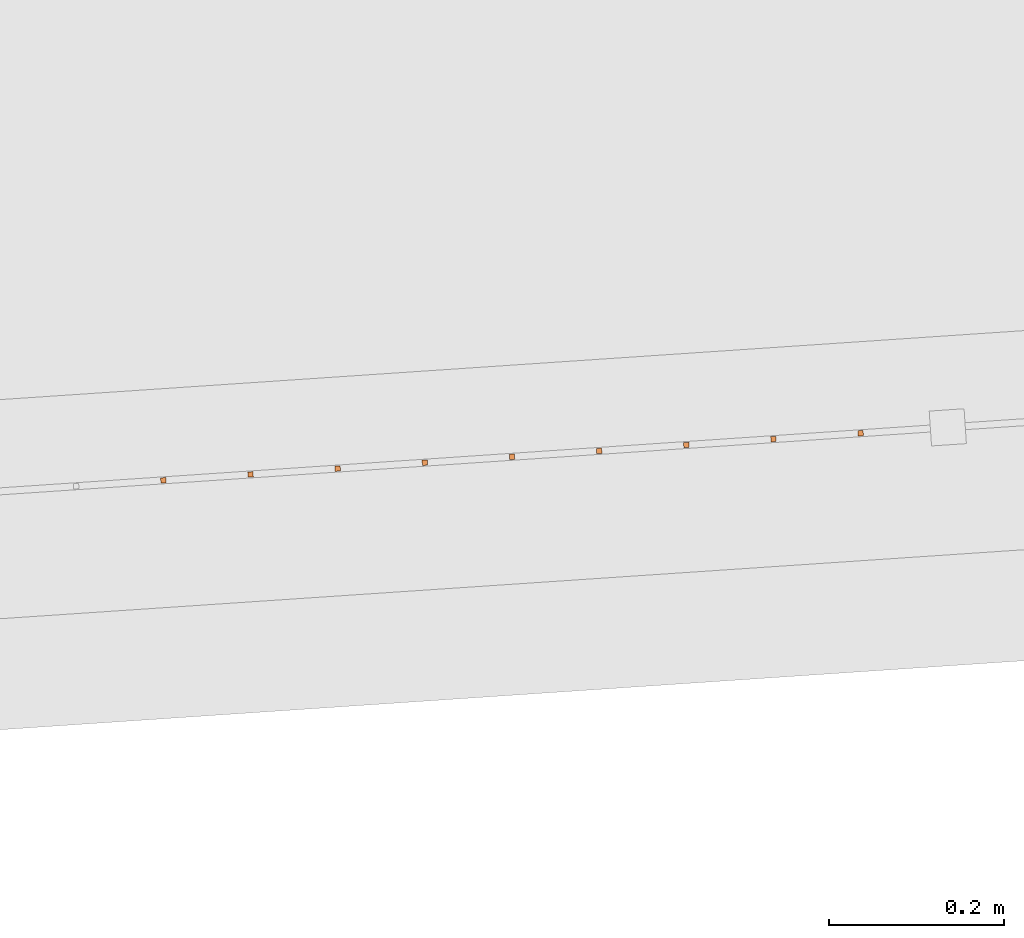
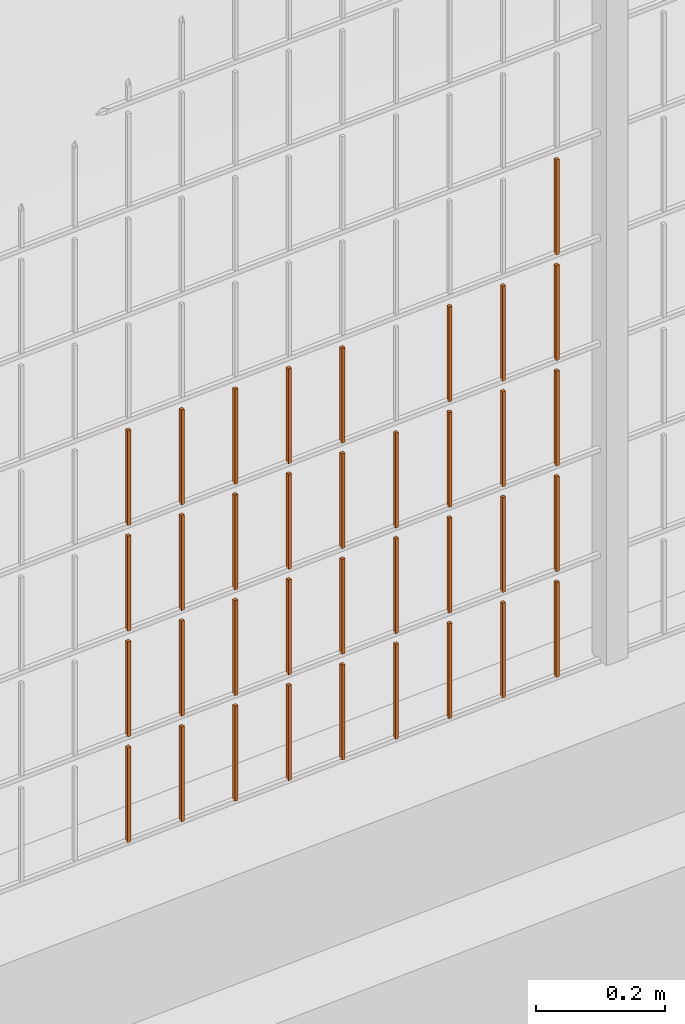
# One storey, part 349 of 1809: 36 proxies, 1 element without a shape of its own.
"""IFC2X3 building model written with IfcOpenShell, lengths in millimetres."""

from ifc_helpers import new_model, entity, si_unit, converted_unit, derived_unit, money_unit, direction, frame, origin_with_axes, place, context, subcontext, project, spatial, faceted_brep, source, transform, mapped, material, type_object, element, aggregate, save


model = new_model("IFC2X3")

# Units and contexts
model_context = context("Model", 3, precision=0.01, world=origin_with_axes(), true_north=direction((0.0, 1.0)))
body_context = subcontext(model_context, "Body", "Model", "MODEL_VIEW")
ifc_project = project(units=[si_unit("LENGTHUNIT", "METRE", prefix="MILLI"), si_unit("AREAUNIT", "SQUARE_METRE"), si_unit("VOLUMEUNIT", "CUBIC_METRE"), converted_unit("PLANEANGLEUNIT", "DEGREE", entity("IfcPlaneAngleMeasure", 0.0174532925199), si_unit("PLANEANGLEUNIT", "RADIAN"), dimensions=[0, 0, 0, 0, 0, 0, 0]), si_unit("SOLIDANGLEUNIT", "STERADIAN"), money_unit("EUR"), converted_unit("TIMEUNIT", "Year", entity("IfcTimeMeasure", 31556926.0), si_unit("TIMEUNIT", "SECOND"), dimensions=[0, 0, 1, 0, 0, 0, 0]), si_unit("MASSUNIT", "GRAM", prefix="KILO"), si_unit("THERMODYNAMICTEMPERATUREUNIT", "DEGREE_CELSIUS"), si_unit("LUMINOUSINTENSITYUNIT", "LUMEN"), si_unit("ENERGYUNIT", "JOULE", prefix="MEGA"), derived_unit("THERMALCONDUCTANCEUNIT", [(si_unit("POWERUNIT", "WATT"), 1), (si_unit("LENGTHUNIT", "METRE"), -1), (si_unit("THERMODYNAMICTEMPERATUREUNIT", "KELVIN"), -1)]), derived_unit("SPECIFICHEATCAPACITYUNIT", [(si_unit("ENERGYUNIT", "JOULE"), 1), (si_unit("MASSUNIT", "GRAM", prefix="KILO"), -1), (si_unit("THERMODYNAMICTEMPERATUREUNIT", "KELVIN"), -1)]), derived_unit("MASSDENSITYUNIT", [(si_unit("MASSUNIT", "GRAM", prefix="KILO"), 1), (si_unit("VOLUMEUNIT", "CUBIC_METRE"), -1)])], contexts=[model_context])

# Site, building, storey
site_placement = place(None, origin_with_axes())
site = spatial("IfcSite", under=ifc_project, at=site_placement, Name="Politse- ja Piirivalveameti ning Päästeameti ühishoone", CompositionType="ELEMENT")
building_placement = place(site_placement, origin_with_axes())
building = spatial("IfcBuilding", under=site, at=building_placement, Name="Politse- ja Piirivalveameti ning Päästeameti ühishoone", CompositionType="ELEMENT")
storey_placement = place(building_placement, origin_with_axes())
storey = spatial("IfcBuildingStorey", under=building, at=storey_placement, Name="Esimene korrus", CompositionType="ELEMENT", Elevation=0.0)

# Proxies
building_element_proxy_type_1 = type_object("IfcBuildingElementProxyType", Name="Railing Type", PredefinedType="NOTDEFINED")
proxy_1_placement = place(storey_placement, frame((89252.001212, -29183.4766571, 203.661247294), z_axis=(0.0, 0.0, 1.0), x_axis=(1.0, 0.0, 0.0)))
proxy_1 = element("IfcBuildingElementProxy", 1, at=proxy_1_placement, inside=storey, type_object=building_element_proxy_type_1, Name="PIIRDEAED")
ifc_material = material(Name="ET-03_Raud")
building_element_proxy_type_2 = type_object("IfcBuildingElementProxyType", Name="IfcBuildingElementProxy", PredefinedType="NOTDEFINED")
shared_shape_1 = source(origin_with_axes(), body_context, "Body", "Brep", [
    faceted_brep([(3.0, 3.0, -0.000752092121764), (-3.0, 3.0, -0.000752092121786), (-3.0, 3.0, 179.99926046), (3.0, 3.0, 179.99926046), (3.0, -3.0, 0.000752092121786), (-3.0, -3.0, 0.000752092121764), (-3.0, -3.0, 180.000764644), (3.0, -3.0, 180.000764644)], [[[0, 1, 2, 3]], [[0, 4, 5, 1]], [[1, 5, 6, 2]], [[3, 2, 6, 7]], [[4, 0, 3, 7]], [[5, 4, 7, 6]]]),
])
proxy_2_placement = place(proxy_1_placement, frame((-27863.1974887, -19179.8286001, 20.233238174), z_axis=(0.0, 0.0, 1.0), x_axis=(1.0, 0.0, 0.0)))
proxy_2 = element("IfcBuildingElementProxy", 2, at=proxy_2_placement, type_object=building_element_proxy_type_2, material=ifc_material, Name="BALUSTER - 001", context=body_context, shape_type="MappedRepresentation", body=[
    mapped(shared_shape_1, transform((0.0, 0.0, 0.0), x_axis=(-0.0673926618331, 0.997726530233, 0.0), y_axis=(-0.997726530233, -0.0673926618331, 0.0), z_axis=(0.0, 0.0, 1.0))),
])
shared_shape_2 = source(origin_with_axes(), body_context, "Body", "Brep", [
    faceted_brep([(3.0, 3.0, -0.000752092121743), (-3.0, 3.0, -0.000752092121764), (-3.0, 3.0, 179.99926046), (3.0, 3.0, 179.99926046), (3.0, -3.0, 0.000752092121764), (-3.0, -3.0, 0.000752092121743), (-3.0, -3.0, 180.000764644), (3.0, -3.0, 180.000764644)], [[[0, 1, 2, 3]], [[0, 4, 5, 1]], [[1, 5, 6, 2]], [[3, 2, 6, 7]], [[4, 0, 3, 7]], [[5, 4, 7, 6]]]),
])
proxy_3_placement = place(proxy_1_placement, frame((-28162.5154478, -19200.0463986, 220.158028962), z_axis=(0.0, 0.0, 1.0), x_axis=(1.0, 0.0, 0.0)))
proxy_3 = element("IfcBuildingElementProxy", 3, at=proxy_3_placement, type_object=building_element_proxy_type_2, material=ifc_material, Name="BALUSTER - 001", context=body_context, shape_type="MappedRepresentation", body=[
    mapped(shared_shape_2, transform((0.0, 0.0, 0.0), x_axis=(-0.0673926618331, 0.997726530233, 0.0), y_axis=(-0.997726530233, -0.0673926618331, 0.0), z_axis=(0.0, 0.0, 1.0))),
])
shared_shape_3 = source(origin_with_axes(), body_context, "Body", "Brep", [
    faceted_brep([(3.0, 3.0, -0.000752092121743), (-3.0, 3.0, -0.000752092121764), (-3.0, 3.0, 179.99926046), (3.0, 3.0, 179.99926046), (3.0, -3.0, 0.000752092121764), (-3.0, -3.0, 0.000752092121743), (-3.0, -3.0, 180.000764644), (3.0, -3.0, 180.000764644)], [[[0, 1, 2, 3]], [[0, 4, 5, 1]], [[1, 5, 6, 2]], [[3, 2, 6, 7]], [[4, 0, 3, 7]], [[5, 4, 7, 6]]]),
])
proxy_4_placement = place(proxy_1_placement, frame((-27962.9701417, -19186.5678662, 220.208168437), z_axis=(0.0, 0.0, 1.0), x_axis=(1.0, 0.0, 0.0)))
proxy_4 = element("IfcBuildingElementProxy", 4, at=proxy_4_placement, type_object=building_element_proxy_type_2, material=ifc_material, Name="BALUSTER - 001", context=body_context, shape_type="MappedRepresentation", body=[
    mapped(shared_shape_3, transform((0.0, 0.0, 0.0), x_axis=(-0.0673926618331, 0.997726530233, 0.0), y_axis=(-0.997726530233, -0.0673926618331, 0.0), z_axis=(0.0, 0.0, 1.0))),
])
proxy_5_placement = place(proxy_1_placement, frame((-27962.9701417, -19186.5678662, 420.208168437), z_axis=(0.0, 0.0, 1.0), x_axis=(1.0, 0.0, 0.0)))
proxy_5 = element("IfcBuildingElementProxy", 5, at=proxy_5_placement, type_object=building_element_proxy_type_2, material=ifc_material, Name="BALUSTER - 001", context=body_context, shape_type="MappedRepresentation", body=[
    mapped(shared_shape_3, transform((0.0, 0.0, 0.0), x_axis=(-0.0673926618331, 0.997726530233, 0.0), y_axis=(-0.997726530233, -0.0673926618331, 0.0), z_axis=(0.0, 0.0, 1.0))),
])
proxy_6_placement = place(proxy_1_placement, frame((-28162.5154478, -19200.0463986, 420.158028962), z_axis=(0.0, 0.0, 1.0), x_axis=(1.0, 0.0, 0.0)))
proxy_6 = element("IfcBuildingElementProxy", 6, at=proxy_6_placement, type_object=building_element_proxy_type_2, material=ifc_material, Name="BALUSTER - 001", context=body_context, shape_type="MappedRepresentation", body=[
    mapped(shared_shape_3, transform((0.0, 0.0, 0.0), x_axis=(-0.0673926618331, 0.997726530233, 0.0), y_axis=(-0.997726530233, -0.0673926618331, 0.0), z_axis=(0.0, 0.0, 1.0))),
])
shared_shape_4 = source(origin_with_axes(), body_context, "Body", "Brep", [
    faceted_brep([(3.0, 3.0, -0.000752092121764), (-3.0, 3.0, -0.000752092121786), (-3.0, 3.0, 179.99926046), (3.0, 3.0, 179.99926046), (3.0, -3.0, 0.000752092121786), (-3.0, -3.0, 0.000752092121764), (-3.0, -3.0, 180.000764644), (3.0, -3.0, 180.000764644)], [[[0, 1, 2, 3]], [[0, 4, 5, 1]], [[1, 5, 6, 2]], [[3, 2, 6, 7]], [[4, 0, 3, 7]], [[5, 4, 7, 6]]]),
])
proxy_7_placement = place(proxy_1_placement, frame((-27863.1974887, -19179.8286001, 220.233238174), z_axis=(0.0, 0.0, 1.0), x_axis=(1.0, 0.0, 0.0)))
proxy_7 = element("IfcBuildingElementProxy", 7, at=proxy_7_placement, type_object=building_element_proxy_type_2, material=ifc_material, Name="BALUSTER - 001", context=body_context, shape_type="MappedRepresentation", body=[
    mapped(shared_shape_4, transform((0.0, 0.0, 0.0), x_axis=(-0.0673926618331, 0.997726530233, 0.0), y_axis=(-0.997726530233, -0.0673926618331, 0.0), z_axis=(0.0, 0.0, 1.0))),
])
shared_shape_5 = source(origin_with_axes(), body_context, "Body", "Brep", [
    faceted_brep([(3.0, 3.0, -0.000752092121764), (-3.0, 3.0, -0.000752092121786), (-3.0, 3.0, 179.99926046), (3.0, 3.0, 179.99926046), (3.0, -3.0, 0.000752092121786), (-3.0, -3.0, 0.000752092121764), (-3.0, -3.0, 180.000764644), (3.0, -3.0, 180.000764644)], [[[0, 1, 2, 3]], [[0, 4, 5, 1]], [[1, 5, 6, 2]], [[3, 2, 6, 7]], [[4, 0, 3, 7]], [[5, 4, 7, 6]]]),
])
proxy_8_placement = place(proxy_1_placement, frame((-27763.4248357, -19173.0893339, 420.258307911), z_axis=(0.0, 0.0, 1.0), x_axis=(1.0, 0.0, 0.0)))
proxy_8 = element("IfcBuildingElementProxy", 8, at=proxy_8_placement, type_object=building_element_proxy_type_2, material=ifc_material, Name="BALUSTER - 001", context=body_context, shape_type="MappedRepresentation", body=[
    mapped(shared_shape_5, transform((0.0, 0.0, 0.0), x_axis=(-0.0673926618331, 0.997726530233, 0.0), y_axis=(-0.997726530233, -0.0673926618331, 0.0), z_axis=(0.0, 0.0, 1.0))),
])
proxy_9_placement = place(proxy_1_placement, frame((-27863.1974887, -19179.8286001, 420.233238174), z_axis=(0.0, 0.0, 1.0), x_axis=(1.0, 0.0, 0.0)))
proxy_9 = element("IfcBuildingElementProxy", 9, at=proxy_9_placement, type_object=building_element_proxy_type_2, material=ifc_material, Name="BALUSTER - 001", context=body_context, shape_type="MappedRepresentation", body=[
    mapped(shared_shape_5, transform((0.0, 0.0, 0.0), x_axis=(-0.0673926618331, 0.997726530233, 0.0), y_axis=(-0.997726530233, -0.0673926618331, 0.0), z_axis=(0.0, 0.0, 1.0))),
])
proxy_10_placement = place(proxy_1_placement, frame((-27863.1974887, -19179.8286001, 620.233238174), z_axis=(0.0, 0.0, 1.0), x_axis=(1.0, 0.0, 0.0)))
proxy_10 = element("IfcBuildingElementProxy", 10, at=proxy_10_placement, type_object=building_element_proxy_type_2, material=ifc_material, Name="BALUSTER - 001", context=body_context, shape_type="MappedRepresentation", body=[
    mapped(shared_shape_5, transform((0.0, 0.0, 0.0), x_axis=(-0.0673926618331, 0.997726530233, 0.0), y_axis=(-0.997726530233, -0.0673926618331, 0.0), z_axis=(0.0, 0.0, 1.0))),
])
shared_shape_6 = source(origin_with_axes(), body_context, "Body", "Brep", [
    faceted_brep([(3.0, 3.0, -0.000752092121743), (-3.0, 3.0, -0.000752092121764), (-3.0, 3.0, 179.99926046), (3.0, 3.0, 179.99926046), (3.0, -3.0, 0.000752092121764), (-3.0, -3.0, 0.000752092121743), (-3.0, -3.0, 180.000764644), (3.0, -3.0, 180.000764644)], [[[0, 1, 2, 3]], [[0, 4, 5, 1]], [[1, 5, 6, 2]], [[3, 2, 6, 7]], [[4, 0, 3, 7]], [[5, 4, 7, 6]]]),
])
proxy_11_placement = place(proxy_1_placement, frame((-28162.5154478, -19200.0463986, 620.158028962), z_axis=(0.0, 0.0, 1.0), x_axis=(1.0, 0.0, 0.0)))
proxy_11 = element("IfcBuildingElementProxy", 11, at=proxy_11_placement, type_object=building_element_proxy_type_2, material=ifc_material, Name="BALUSTER - 001", context=body_context, shape_type="MappedRepresentation", body=[
    mapped(shared_shape_6, transform((0.0, 0.0, 0.0), x_axis=(-0.0673926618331, 0.997726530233, 0.0), y_axis=(-0.997726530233, -0.0673926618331, 0.0), z_axis=(0.0, 0.0, 1.0))),
])
shared_shape_7 = source(origin_with_axes(), body_context, "Body", "Brep", [
    faceted_brep([(3.0, 3.0, -0.000752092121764), (-3.0, 3.0, -0.000752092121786), (-3.0, 3.0, 179.99926046), (3.0, 3.0, 179.99926046), (3.0, -3.0, 0.000752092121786), (-3.0, -3.0, 0.000752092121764), (-3.0, -3.0, 180.000764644), (3.0, -3.0, 180.000764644)], [[[0, 1, 2, 3]], [[0, 4, 5, 1]], [[1, 5, 6, 2]], [[3, 2, 6, 7]], [[4, 0, 3, 7]], [[5, 4, 7, 6]]]),
])
proxy_12_placement = place(proxy_1_placement, frame((-27763.4248357, -19173.0893339, 620.258307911), z_axis=(0.0, 0.0, 1.0), x_axis=(1.0, 0.0, 0.0)))
proxy_12 = element("IfcBuildingElementProxy", 12, at=proxy_12_placement, type_object=building_element_proxy_type_2, material=ifc_material, Name="BALUSTER - 001", context=body_context, shape_type="MappedRepresentation", body=[
    mapped(shared_shape_7, transform((0.0, 0.0, 0.0), x_axis=(-0.0673926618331, 0.997726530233, 0.0), y_axis=(-0.997726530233, -0.0673926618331, 0.0), z_axis=(0.0, 0.0, 1.0))),
])
shared_shape_8 = source(origin_with_axes(), body_context, "Body", "Brep", [
    faceted_brep([(3.0, 3.0, -0.000752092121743), (-3.0, 3.0, -0.000752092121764), (-3.0, 3.0, 179.99926046), (3.0, 3.0, 179.99926046), (3.0, -3.0, 0.000752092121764), (-3.0, -3.0, 0.000752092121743), (-3.0, -3.0, 180.000764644), (3.0, -3.0, 180.000764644)], [[[0, 1, 2, 3]], [[0, 4, 5, 1]], [[1, 5, 6, 2]], [[3, 2, 6, 7]], [[4, 0, 3, 7]], [[5, 4, 7, 6]]]),
])
proxy_13_placement = place(proxy_1_placement, frame((-27962.9701417, -19186.5678662, 620.208168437), z_axis=(0.0, 0.0, 1.0), x_axis=(1.0, 0.0, 0.0)))
proxy_13 = element("IfcBuildingElementProxy", 13, at=proxy_13_placement, type_object=building_element_proxy_type_2, material=ifc_material, Name="BALUSTER - 001", context=body_context, shape_type="MappedRepresentation", body=[
    mapped(shared_shape_8, transform((0.0, 0.0, 0.0), x_axis=(-0.0673926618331, 0.997726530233, 0.0), y_axis=(-0.997726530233, -0.0673926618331, 0.0), z_axis=(0.0, 0.0, 1.0))),
])
shared_shape_9 = source(origin_with_axes(), body_context, "Body", "Brep", [
    faceted_brep([(3.0, 3.0, -0.000752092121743), (-3.0, 3.0, -0.000752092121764), (-3.0, 3.0, 179.99926046), (3.0, 3.0, 179.99926046), (3.0, -3.0, 0.000752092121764), (-3.0, -3.0, 0.000752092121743), (-3.0, -3.0, 180.000764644), (3.0, -3.0, 180.000764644)], [[[0, 1, 2, 3]], [[0, 4, 5, 1]], [[1, 5, 6, 2]], [[3, 2, 6, 7]], [[4, 0, 3, 7]], [[5, 4, 7, 6]]]),
])
proxy_14_placement = place(proxy_1_placement, frame((-27962.9701417, -19186.5678662, 20.2081684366), z_axis=(0.0, 0.0, 1.0), x_axis=(1.0, 0.0, 0.0)))
proxy_14 = element("IfcBuildingElementProxy", 14, at=proxy_14_placement, type_object=building_element_proxy_type_2, material=ifc_material, Name="BALUSTER - 001", context=body_context, shape_type="MappedRepresentation", body=[
    mapped(shared_shape_9, transform((0.0, 0.0, 0.0), x_axis=(-0.0673926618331, 0.997726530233, 0.0), y_axis=(-0.997726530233, -0.0673926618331, 0.0), z_axis=(0.0, 0.0, 1.0))),
])
proxy_15_placement = place(proxy_1_placement, frame((-28162.5154478, -19200.0463986, 20.1580289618), z_axis=(0.0, 0.0, 1.0), x_axis=(1.0, 0.0, 0.0)))
proxy_15 = element("IfcBuildingElementProxy", 15, at=proxy_15_placement, type_object=building_element_proxy_type_2, material=ifc_material, Name="BALUSTER - 001", context=body_context, shape_type="MappedRepresentation", body=[
    mapped(shared_shape_9, transform((0.0, 0.0, 0.0), x_axis=(-0.0673926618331, 0.997726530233, 0.0), y_axis=(-0.997726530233, -0.0673926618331, 0.0), z_axis=(0.0, 0.0, 1.0))),
])
shared_shape_10 = source(origin_with_axes(), body_context, "Body", "Brep", [
    faceted_brep([(3.0, 3.0, -0.000752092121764), (-3.0, 3.0, -0.000752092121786), (-3.0, 3.0, 179.99926046), (3.0, 3.0, 179.99926046), (3.0, -3.0, 0.000752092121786), (-3.0, -3.0, 0.000752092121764), (-3.0, -3.0, 180.000764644), (3.0, -3.0, 180.000764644)], [[[0, 1, 2, 3]], [[0, 4, 5, 1]], [[1, 5, 6, 2]], [[3, 2, 6, 7]], [[4, 0, 3, 7]], [[5, 4, 7, 6]]]),
])
proxy_16_placement = place(proxy_1_placement, frame((-27763.4248357, -19173.0893339, 20.2583079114), z_axis=(0.0, 0.0, 1.0), x_axis=(1.0, 0.0, 0.0)))
proxy_16 = element("IfcBuildingElementProxy", 16, at=proxy_16_placement, type_object=building_element_proxy_type_2, material=ifc_material, Name="BALUSTER - 001", context=body_context, shape_type="MappedRepresentation", body=[
    mapped(shared_shape_10, transform((0.0, 0.0, 0.0), x_axis=(-0.0673926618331, 0.997726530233, 0.0), y_axis=(-0.997726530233, -0.0673926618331, 0.0), z_axis=(0.0, 0.0, 1.0))),
])
proxy_17_placement = place(proxy_1_placement, frame((-27763.4248357, -19173.0893339, 220.258307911), z_axis=(0.0, 0.0, 1.0), x_axis=(1.0, 0.0, 0.0)))
proxy_17 = element("IfcBuildingElementProxy", 17, at=proxy_17_placement, type_object=building_element_proxy_type_2, material=ifc_material, Name="BALUSTER - 001", context=body_context, shape_type="MappedRepresentation", body=[
    mapped(shared_shape_10, transform((0.0, 0.0, 0.0), x_axis=(-0.0673926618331, 0.997726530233, 0.0), y_axis=(-0.997726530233, -0.0673926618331, 0.0), z_axis=(0.0, 0.0, 1.0))),
])
shared_shape_11 = source(origin_with_axes(), body_context, "Body", "Brep", [
    faceted_brep([(3.0, 3.0, -0.000752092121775), (-3.0, 3.0, -0.000752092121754), (-3.0, 3.0, 179.99926046), (3.0, 3.0, 179.99926046), (3.0, -3.0, 0.000752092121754), (-3.0, -3.0, 0.000752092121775), (-3.0, -3.0, 180.000764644), (3.0, -3.0, 180.000764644)], [[[0, 1, 2, 3]], [[0, 4, 5, 1]], [[1, 5, 6, 2]], [[3, 2, 6, 7]], [[4, 0, 3, 7]], [[5, 4, 7, 6]]]),
])
proxy_18_placement = place(proxy_1_placement, frame((-27663.6521826, -19166.3500677, 20.2833776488), z_axis=(0.0, 0.0, 1.0), x_axis=(1.0, 0.0, 0.0)))
proxy_18 = element("IfcBuildingElementProxy", 18, at=proxy_18_placement, type_object=building_element_proxy_type_2, material=ifc_material, Name="BALUSTER - 001", context=body_context, shape_type="MappedRepresentation", body=[
    mapped(shared_shape_11, transform((0.0, 0.0, 0.0), x_axis=(-0.0673926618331, 0.997726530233, 0.0), y_axis=(-0.997726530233, -0.0673926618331, 0.0), z_axis=(0.0, 0.0, 1.0))),
])
shared_shape_12 = source(origin_with_axes(), body_context, "Body", "Brep", [
    faceted_brep([(3.0, 3.0, -0.000752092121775), (-3.0, 3.0, -0.000752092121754), (-3.0, 3.0, 179.99926046), (3.0, 3.0, 179.99926046), (3.0, -3.0, 0.000752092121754), (-3.0, -3.0, 0.000752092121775), (-3.0, -3.0, 180.000764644), (3.0, -3.0, 180.000764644)], [[[0, 1, 2, 3]], [[0, 4, 5, 1]], [[1, 5, 6, 2]], [[3, 2, 6, 7]], [[4, 0, 3, 7]], [[5, 4, 7, 6]]]),
])
proxy_19_placement = place(proxy_1_placement, frame((-27464.1068766, -19152.8715353, 220.333517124), z_axis=(0.0, 0.0, 1.0), x_axis=(1.0, 0.0, 0.0)))
proxy_19 = element("IfcBuildingElementProxy", 19, at=proxy_19_placement, type_object=building_element_proxy_type_2, material=ifc_material, Name="BALUSTER - 001", context=body_context, shape_type="MappedRepresentation", body=[
    mapped(shared_shape_12, transform((0.0, 0.0, 0.0), x_axis=(-0.0673926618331, 0.997726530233, 0.0), y_axis=(-0.997726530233, -0.0673926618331, 0.0), z_axis=(0.0, 0.0, 1.0))),
])
proxy_20_placement = place(proxy_1_placement, frame((-27464.1068766, -19152.8715353, 420.333517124), z_axis=(0.0, 0.0, 1.0), x_axis=(1.0, 0.0, 0.0)))
proxy_20 = element("IfcBuildingElementProxy", 20, at=proxy_20_placement, type_object=building_element_proxy_type_2, material=ifc_material, Name="BALUSTER - 001", context=body_context, shape_type="MappedRepresentation", body=[
    mapped(shared_shape_12, transform((0.0, 0.0, 0.0), x_axis=(-0.0673926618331, 0.997726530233, 0.0), y_axis=(-0.997726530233, -0.0673926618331, 0.0), z_axis=(0.0, 0.0, 1.0))),
])
shared_shape_13 = source(origin_with_axes(), body_context, "Body", "Brep", [
    faceted_brep([(3.0, 3.0, -0.000752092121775), (-3.0, 3.0, -0.000752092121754), (-3.0, 3.0, 179.99926046), (3.0, 3.0, 179.99926046), (3.0, -3.0, 0.000752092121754), (-3.0, -3.0, 0.000752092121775), (-3.0, -3.0, 180.000764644), (3.0, -3.0, 180.000764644)], [[[0, 1, 2, 3]], [[0, 4, 5, 1]], [[1, 5, 6, 2]], [[3, 2, 6, 7]], [[4, 0, 3, 7]], [[5, 4, 7, 6]]]),
])
proxy_21_placement = place(proxy_1_placement, frame((-27464.1068766, -19152.8715353, 620.333517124), z_axis=(0.0, 0.0, 1.0), x_axis=(1.0, 0.0, 0.0)))
proxy_21 = element("IfcBuildingElementProxy", 21, at=proxy_21_placement, type_object=building_element_proxy_type_2, material=ifc_material, Name="BALUSTER - 001", context=body_context, shape_type="MappedRepresentation", body=[
    mapped(shared_shape_13, transform((0.0, 0.0, 0.0), x_axis=(-0.0673926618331, 0.997726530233, 0.0), y_axis=(-0.997726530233, -0.0673926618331, 0.0), z_axis=(0.0, 0.0, 1.0))),
])
shared_shape_14 = source(origin_with_axes(), body_context, "Body", "Brep", [
    faceted_brep([(3.0, 3.0, -0.000752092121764), (-3.0, 3.0, -0.000752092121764), (-3.0, 3.0, 179.99926046), (3.0, 3.0, 179.99926046), (3.0, -3.0, 0.000752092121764), (-3.0, -3.0, 0.000752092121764), (-3.0, -3.0, 180.000764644), (3.0, -3.0, 180.000764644)], [[[0, 1, 2, 3]], [[0, 4, 5, 1]], [[1, 5, 6, 2]], [[3, 2, 6, 7]], [[4, 0, 3, 7]], [[5, 4, 7, 6]]]),
])
proxy_22_placement = place(proxy_1_placement, frame((-27364.3342236, -19146.1322691, 220.358586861), z_axis=(0.0, 0.0, 1.0), x_axis=(1.0, 0.0, 0.0)))
proxy_22 = element("IfcBuildingElementProxy", 22, at=proxy_22_placement, type_object=building_element_proxy_type_2, material=ifc_material, Name="BALUSTER - 001", context=body_context, shape_type="MappedRepresentation", body=[
    mapped(shared_shape_14, transform((0.0, 0.0, 0.0), x_axis=(-0.0673926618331, 0.997726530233, 0.0), y_axis=(-0.997726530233, -0.0673926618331, 0.0), z_axis=(0.0, 0.0, 1.0))),
])
proxy_23_placement = place(proxy_1_placement, frame((-27364.3342236, -19146.1322691, 620.358586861), z_axis=(0.0, 0.0, 1.0), x_axis=(1.0, 0.0, 0.0)))
proxy_23 = element("IfcBuildingElementProxy", 23, at=proxy_23_placement, type_object=building_element_proxy_type_2, material=ifc_material, Name="BALUSTER - 001", context=body_context, shape_type="MappedRepresentation", body=[
    mapped(shared_shape_14, transform((0.0, 0.0, 0.0), x_axis=(-0.0673926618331, 0.997726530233, 0.0), y_axis=(-0.997726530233, -0.0673926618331, 0.0), z_axis=(0.0, 0.0, 1.0))),
])
shared_shape_15 = source(origin_with_axes(), body_context, "Body", "Brep", [
    faceted_brep([(3.0, 3.0, -0.000752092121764), (-3.0, 3.0, -0.000752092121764), (-3.0, 3.0, 179.99926046), (3.0, 3.0, 179.99926046), (3.0, -3.0, 0.000752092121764), (-3.0, -3.0, 0.000752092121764), (-3.0, -3.0, 180.000764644), (3.0, -3.0, 180.000764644)], [[[0, 1, 2, 3]], [[0, 4, 5, 1]], [[1, 5, 6, 2]], [[3, 2, 6, 7]], [[4, 0, 3, 7]], [[5, 4, 7, 6]]]),
])
proxy_24_placement = place(proxy_1_placement, frame((-27563.8795296, -19159.6108015, 420.308447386), z_axis=(0.0, 0.0, 1.0), x_axis=(1.0, 0.0, 0.0)))
proxy_24 = element("IfcBuildingElementProxy", 24, at=proxy_24_placement, type_object=building_element_proxy_type_2, material=ifc_material, Name="BALUSTER - 001", context=body_context, shape_type="MappedRepresentation", body=[
    mapped(shared_shape_15, transform((0.0, 0.0, 0.0), x_axis=(-0.0673926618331, 0.997726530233, 0.0), y_axis=(-0.997726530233, -0.0673926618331, 0.0), z_axis=(0.0, 0.0, 1.0))),
])
proxy_25_placement = place(proxy_1_placement, frame((-27563.8795296, -19159.6108015, 620.308447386), z_axis=(0.0, 0.0, 1.0), x_axis=(1.0, 0.0, 0.0)))
proxy_25 = element("IfcBuildingElementProxy", 25, at=proxy_25_placement, type_object=building_element_proxy_type_2, material=ifc_material, Name="BALUSTER - 001", context=body_context, shape_type="MappedRepresentation", body=[
    mapped(shared_shape_15, transform((0.0, 0.0, 0.0), x_axis=(-0.0673926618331, 0.997726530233, 0.0), y_axis=(-0.997726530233, -0.0673926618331, 0.0), z_axis=(0.0, 0.0, 1.0))),
])
shared_shape_16 = source(origin_with_axes(), body_context, "Body", "Brep", [
    faceted_brep([(3.0, 3.0, -0.000752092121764), (-3.0, 3.0, -0.000752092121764), (-3.0, 3.0, 179.99926046), (3.0, 3.0, 179.99926046), (3.0, -3.0, 0.000752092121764), (-3.0, -3.0, 0.000752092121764), (-3.0, -3.0, 180.000764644), (3.0, -3.0, 180.000764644)], [[[0, 1, 2, 3]], [[0, 4, 5, 1]], [[1, 5, 6, 2]], [[3, 2, 6, 7]], [[4, 0, 3, 7]], [[5, 4, 7, 6]]]),
])
proxy_26_placement = place(proxy_1_placement, frame((-27364.3342236, -19146.1322691, 420.358586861), z_axis=(0.0, 0.0, 1.0), x_axis=(1.0, 0.0, 0.0)))
proxy_26 = element("IfcBuildingElementProxy", 26, at=proxy_26_placement, type_object=building_element_proxy_type_2, material=ifc_material, Name="BALUSTER - 001", context=body_context, shape_type="MappedRepresentation", body=[
    mapped(shared_shape_16, transform((0.0, 0.0, 0.0), x_axis=(-0.0673926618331, 0.997726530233, 0.0), y_axis=(-0.997726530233, -0.0673926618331, 0.0), z_axis=(0.0, 0.0, 1.0))),
])
shared_shape_17 = source(origin_with_axes(), body_context, "Body", "Brep", [
    faceted_brep([(3.0, 3.0, -0.000752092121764), (-3.0, 3.0, -0.000752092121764), (-3.0, 3.0, 179.99926046), (3.0, 3.0, 179.99926046), (3.0, -3.0, 0.000752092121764), (-3.0, -3.0, 0.000752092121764), (-3.0, -3.0, 180.000764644), (3.0, -3.0, 180.000764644)], [[[0, 1, 2, 3]], [[0, 4, 5, 1]], [[1, 5, 6, 2]], [[3, 2, 6, 7]], [[4, 0, 3, 7]], [[5, 4, 7, 6]]]),
])
proxy_27_placement = place(proxy_1_placement, frame((-27364.3342236, -19146.1322691, 820.358586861), z_axis=(0.0, 0.0, 1.0), x_axis=(1.0, 0.0, 0.0)))
proxy_27 = element("IfcBuildingElementProxy", 27, at=proxy_27_placement, type_object=building_element_proxy_type_2, material=ifc_material, Name="BALUSTER - 001", context=body_context, shape_type="MappedRepresentation", body=[
    mapped(shared_shape_17, transform((0.0, 0.0, 0.0), x_axis=(-0.0673926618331, 0.997726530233, 0.0), y_axis=(-0.997726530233, -0.0673926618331, 0.0), z_axis=(0.0, 0.0, 1.0))),
])
shared_shape_18 = source(origin_with_axes(), body_context, "Body", "Brep", [
    faceted_brep([(3.0, 3.0, -0.000752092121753), (-3.0, 3.0, -0.000752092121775), (-3.0, 3.0, 179.99926046), (3.0, 3.0, 179.99926046), (3.0, -3.0, 0.000752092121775), (-3.0, -3.0, 0.000752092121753), (-3.0, -3.0, 180.000764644), (3.0, -3.0, 180.000764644)], [[[0, 1, 2, 3]], [[0, 4, 5, 1]], [[1, 5, 6, 2]], [[3, 2, 6, 7]], [[4, 0, 3, 7]], [[5, 4, 7, 6]]]),
])
proxy_28_placement = place(proxy_1_placement, frame((-28062.7427947, -19193.3071324, 420.183098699), z_axis=(0.0, 0.0, 1.0), x_axis=(1.0, 0.0, 0.0)))
proxy_28 = element("IfcBuildingElementProxy", 28, at=proxy_28_placement, type_object=building_element_proxy_type_2, material=ifc_material, Name="BALUSTER - 001", context=body_context, shape_type="MappedRepresentation", body=[
    mapped(shared_shape_18, transform((0.0, 0.0, 0.0), x_axis=(-0.0673926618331, 0.997726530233, 0.0), y_axis=(-0.997726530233, -0.0673926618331, 0.0), z_axis=(0.0, 0.0, 1.0))),
])
shared_shape_19 = source(origin_with_axes(), body_context, "Body", "Brep", [
    faceted_brep([(3.0, 3.0, -0.000752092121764), (-3.0, 3.0, -0.000752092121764), (-3.0, 3.0, 179.99926046), (3.0, 3.0, 179.99926046), (3.0, -3.0, 0.000752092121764), (-3.0, -3.0, 0.000752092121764), (-3.0, -3.0, 180.000764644), (3.0, -3.0, 180.000764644)], [[[0, 1, 2, 3]], [[0, 4, 5, 1]], [[1, 5, 6, 2]], [[3, 2, 6, 7]], [[4, 0, 3, 7]], [[5, 4, 7, 6]]]),
])
proxy_29_placement = place(proxy_1_placement, frame((-27364.3342236, -19146.1322691, 20.358586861), z_axis=(0.0, 0.0, 1.0), x_axis=(1.0, 0.0, 0.0)))
proxy_29 = element("IfcBuildingElementProxy", 29, at=proxy_29_placement, type_object=building_element_proxy_type_2, material=ifc_material, Name="BALUSTER - 001", context=body_context, shape_type="MappedRepresentation", body=[
    mapped(shared_shape_19, transform((0.0, 0.0, 0.0), x_axis=(-0.0673926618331, 0.997726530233, 0.0), y_axis=(-0.997726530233, -0.0673926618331, 0.0), z_axis=(0.0, 0.0, 1.0))),
])
shared_shape_20 = source(origin_with_axes(), body_context, "Body", "Brep", [
    faceted_brep([(3.0, 3.0, -0.000752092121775), (-3.0, 3.0, -0.000752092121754), (-3.0, 3.0, 179.99926046), (3.0, 3.0, 179.99926046), (3.0, -3.0, 0.000752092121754), (-3.0, -3.0, 0.000752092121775), (-3.0, -3.0, 180.000764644), (3.0, -3.0, 180.000764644)], [[[0, 1, 2, 3]], [[0, 4, 5, 1]], [[1, 5, 6, 2]], [[3, 2, 6, 7]], [[4, 0, 3, 7]], [[5, 4, 7, 6]]]),
])
proxy_30_placement = place(proxy_1_placement, frame((-27464.1068766, -19152.8715353, 20.3335171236), z_axis=(0.0, 0.0, 1.0), x_axis=(1.0, 0.0, 0.0)))
proxy_30 = element("IfcBuildingElementProxy", 30, at=proxy_30_placement, type_object=building_element_proxy_type_2, material=ifc_material, Name="BALUSTER - 001", context=body_context, shape_type="MappedRepresentation", body=[
    mapped(shared_shape_20, transform((0.0, 0.0, 0.0), x_axis=(-0.0673926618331, 0.997726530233, 0.0), y_axis=(-0.997726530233, -0.0673926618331, 0.0), z_axis=(0.0, 0.0, 1.0))),
])
proxy_31_placement = place(proxy_1_placement, frame((-27663.6521826, -19166.3500677, 220.283377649), z_axis=(0.0, 0.0, 1.0), x_axis=(1.0, 0.0, 0.0)))
proxy_31 = element("IfcBuildingElementProxy", 31, at=proxy_31_placement, type_object=building_element_proxy_type_2, material=ifc_material, Name="BALUSTER - 001", context=body_context, shape_type="MappedRepresentation", body=[
    mapped(shared_shape_20, transform((0.0, 0.0, 0.0), x_axis=(-0.0673926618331, 0.997726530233, 0.0), y_axis=(-0.997726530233, -0.0673926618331, 0.0), z_axis=(0.0, 0.0, 1.0))),
])
shared_shape_21 = source(origin_with_axes(), body_context, "Body", "Brep", [
    faceted_brep([(3.0, 3.0, -0.000752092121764), (-3.0, 3.0, -0.000752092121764), (-3.0, 3.0, 179.99926046), (3.0, 3.0, 179.99926046), (3.0, -3.0, 0.000752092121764), (-3.0, -3.0, 0.000752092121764), (-3.0, -3.0, 180.000764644), (3.0, -3.0, 180.000764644)], [[[0, 1, 2, 3]], [[0, 4, 5, 1]], [[1, 5, 6, 2]], [[3, 2, 6, 7]], [[4, 0, 3, 7]], [[5, 4, 7, 6]]]),
])
proxy_32_placement = place(proxy_1_placement, frame((-27563.8795296, -19159.6108015, 20.3084473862), z_axis=(0.0, 0.0, 1.0), x_axis=(1.0, 0.0, 0.0)))
proxy_32 = element("IfcBuildingElementProxy", 32, at=proxy_32_placement, type_object=building_element_proxy_type_2, material=ifc_material, Name="BALUSTER - 001", context=body_context, shape_type="MappedRepresentation", body=[
    mapped(shared_shape_21, transform((0.0, 0.0, 0.0), x_axis=(-0.0673926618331, 0.997726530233, 0.0), y_axis=(-0.997726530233, -0.0673926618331, 0.0), z_axis=(0.0, 0.0, 1.0))),
])
shared_shape_22 = source(origin_with_axes(), body_context, "Body", "Brep", [
    faceted_brep([(3.0, 3.0, -0.000752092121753), (-3.0, 3.0, -0.000752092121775), (-3.0, 3.0, 179.99926046), (3.0, 3.0, 179.99926046), (3.0, -3.0, 0.000752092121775), (-3.0, -3.0, 0.000752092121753), (-3.0, -3.0, 180.000764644), (3.0, -3.0, 180.000764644)], [[[0, 1, 2, 3]], [[0, 4, 5, 1]], [[1, 5, 6, 2]], [[3, 2, 6, 7]], [[4, 0, 3, 7]], [[5, 4, 7, 6]]]),
])
proxy_33_placement = place(proxy_1_placement, frame((-28062.7427947, -19193.3071324, 20.1830986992), z_axis=(0.0, 0.0, 1.0), x_axis=(1.0, 0.0, 0.0)))
proxy_33 = element("IfcBuildingElementProxy", 33, at=proxy_33_placement, type_object=building_element_proxy_type_2, material=ifc_material, Name="BALUSTER - 001", context=body_context, shape_type="MappedRepresentation", body=[
    mapped(shared_shape_22, transform((0.0, 0.0, 0.0), x_axis=(-0.0673926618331, 0.997726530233, 0.0), y_axis=(-0.997726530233, -0.0673926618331, 0.0), z_axis=(0.0, 0.0, 1.0))),
])
shared_shape_23 = source(origin_with_axes(), body_context, "Body", "Brep", [
    faceted_brep([(3.0, 3.0, -0.000752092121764), (-3.0, 3.0, -0.000752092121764), (-3.0, 3.0, 179.99926046), (3.0, 3.0, 179.99926046), (3.0, -3.0, 0.000752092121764), (-3.0, -3.0, 0.000752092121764), (-3.0, -3.0, 180.000764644), (3.0, -3.0, 180.000764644)], [[[0, 1, 2, 3]], [[0, 4, 5, 1]], [[1, 5, 6, 2]], [[3, 2, 6, 7]], [[4, 0, 3, 7]], [[5, 4, 7, 6]]]),
])
proxy_34_placement = place(proxy_1_placement, frame((-27563.8795296, -19159.6108015, 220.308447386), z_axis=(0.0, 0.0, 1.0), x_axis=(1.0, 0.0, 0.0)))
proxy_34 = element("IfcBuildingElementProxy", 34, at=proxy_34_placement, type_object=building_element_proxy_type_2, material=ifc_material, Name="BALUSTER - 001", context=body_context, shape_type="MappedRepresentation", body=[
    mapped(shared_shape_23, transform((0.0, 0.0, 0.0), x_axis=(-0.0673926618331, 0.997726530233, 0.0), y_axis=(-0.997726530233, -0.0673926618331, 0.0), z_axis=(0.0, 0.0, 1.0))),
])
shared_shape_24 = source(origin_with_axes(), body_context, "Body", "Brep", [
    faceted_brep([(3.0, 3.0, -0.000752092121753), (-3.0, 3.0, -0.000752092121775), (-3.0, 3.0, 179.99926046), (3.0, 3.0, 179.99926046), (3.0, -3.0, 0.000752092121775), (-3.0, -3.0, 0.000752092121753), (-3.0, -3.0, 180.000764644), (3.0, -3.0, 180.000764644)], [[[0, 1, 2, 3]], [[0, 4, 5, 1]], [[1, 5, 6, 2]], [[3, 2, 6, 7]], [[4, 0, 3, 7]], [[5, 4, 7, 6]]]),
])
proxy_35_placement = place(proxy_1_placement, frame((-28062.7427947, -19193.3071324, 220.183098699), z_axis=(0.0, 0.0, 1.0), x_axis=(1.0, 0.0, 0.0)))
proxy_35 = element("IfcBuildingElementProxy", 35, at=proxy_35_placement, type_object=building_element_proxy_type_2, material=ifc_material, Name="BALUSTER - 001", context=body_context, shape_type="MappedRepresentation", body=[
    mapped(shared_shape_24, transform((0.0, 0.0, 0.0), x_axis=(-0.0673926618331, 0.997726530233, 0.0), y_axis=(-0.997726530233, -0.0673926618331, 0.0), z_axis=(0.0, 0.0, 1.0))),
])
proxy_36_placement = place(proxy_1_placement, frame((-28062.7427947, -19193.3071324, 620.183098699), z_axis=(0.0, 0.0, 1.0), x_axis=(1.0, 0.0, 0.0)))
proxy_36 = element("IfcBuildingElementProxy", 36, at=proxy_36_placement, type_object=building_element_proxy_type_2, material=ifc_material, Name="BALUSTER - 001", context=body_context, shape_type="MappedRepresentation", body=[
    mapped(shared_shape_24, transform((0.0, 0.0, 0.0), x_axis=(-0.0673926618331, 0.997726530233, 0.0), y_axis=(-0.997726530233, -0.0673926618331, 0.0), z_axis=(0.0, 0.0, 1.0))),
])
shared_shape_25 = source(origin_with_axes(), body_context, "Body", "Brep", [
    faceted_brep([(3.0, 3.0, -0.000752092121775), (-3.0, 3.0, -0.000752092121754), (-3.0, 3.0, 179.99926046), (3.0, 3.0, 179.99926046), (3.0, -3.0, 0.000752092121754), (-3.0, -3.0, 0.000752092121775), (-3.0, -3.0, 180.000764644), (3.0, -3.0, 180.000764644)], [[[0, 1, 2, 3]], [[0, 4, 5, 1]], [[1, 5, 6, 2]], [[3, 2, 6, 7]], [[4, 0, 3, 7]], [[5, 4, 7, 6]]]),
])
proxy_37_placement = place(proxy_1_placement, frame((-27663.6521826, -19166.3500677, 420.283377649), z_axis=(0.0, 0.0, 1.0), x_axis=(1.0, 0.0, 0.0)))
proxy_37 = element("IfcBuildingElementProxy", 37, at=proxy_37_placement, type_object=building_element_proxy_type_2, material=ifc_material, Name="BALUSTER - 001", context=body_context, shape_type="MappedRepresentation", body=[
    mapped(shared_shape_25, transform((0.0, 0.0, 0.0), x_axis=(-0.0673926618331, 0.997726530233, 0.0), y_axis=(-0.997726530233, -0.0673926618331, 0.0), z_axis=(0.0, 0.0, 1.0))),
])
aggregate(proxy_1, [proxy_29, proxy_30, proxy_32, proxy_18, proxy_16, proxy_2, proxy_14, proxy_33, proxy_15, proxy_22, proxy_19, proxy_34, proxy_31, proxy_17, proxy_7, proxy_4, proxy_35, proxy_3, proxy_26, proxy_20, proxy_24, proxy_37, proxy_8, proxy_9, proxy_5, proxy_28, proxy_6, proxy_23, proxy_21, proxy_25, proxy_12, proxy_10, proxy_13, proxy_36, proxy_11, proxy_27])

save(model, "model.ifc")
